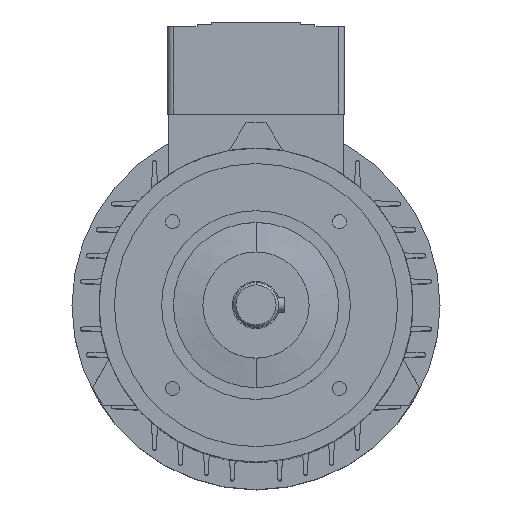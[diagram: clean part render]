
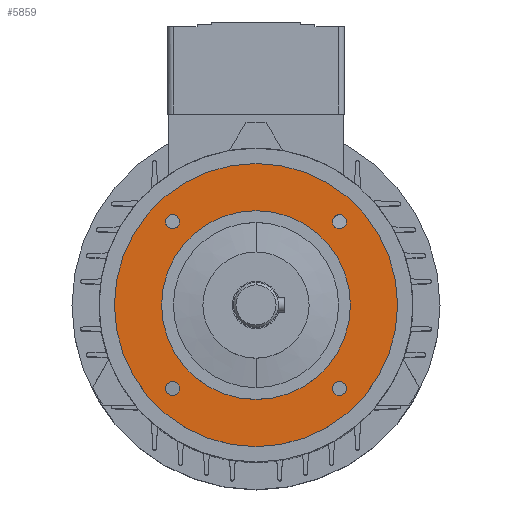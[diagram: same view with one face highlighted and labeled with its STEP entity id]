
A CAD part, top view. The second image highlights one B-rep face of the part: STEP entity #5859.
In plain terms, the highlighted planar face has unit normal (0, 0, 1).
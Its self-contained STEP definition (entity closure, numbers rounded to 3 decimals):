
#1607=CARTESIAN_POINT('',(-35.355,35.355,23.5));
#1608=DIRECTION('',(0.,0.,-1.));
#1609=DIRECTION('',(-1.,0.,0.));
#1610=AXIS2_PLACEMENT_3D('',#1607,#1608,#1609);
#1612=CARTESIAN_POINT('',(-35.355,35.355,23.5));
#1613=DIRECTION('',(0.,0.,-1.));
#1614=DIRECTION('',(1.,0.,0.));
#1615=AXIS2_PLACEMENT_3D('',#1612,#1613,#1614);
#1617=CARTESIAN_POINT('',(-35.355,-35.355,23.5));
#1618=DIRECTION('',(0.,0.,-1.));
#1619=DIRECTION('',(-1.,0.,0.));
#1620=AXIS2_PLACEMENT_3D('',#1617,#1618,#1619);
#1622=CARTESIAN_POINT('',(-35.355,-35.355,23.5));
#1623=DIRECTION('',(0.,0.,-1.));
#1624=DIRECTION('',(1.,0.,0.));
#1625=AXIS2_PLACEMENT_3D('',#1622,#1623,#1624);
#1627=CARTESIAN_POINT('',(35.355,-35.355,23.5));
#1628=DIRECTION('',(0.,0.,-1.));
#1629=DIRECTION('',(-1.,0.,0.));
#1630=AXIS2_PLACEMENT_3D('',#1627,#1628,#1629);
#1632=CARTESIAN_POINT('',(35.355,-35.355,23.5));
#1633=DIRECTION('',(0.,0.,-1.));
#1634=DIRECTION('',(1.,0.,0.));
#1635=AXIS2_PLACEMENT_3D('',#1632,#1633,#1634);
#1637=CARTESIAN_POINT('',(0.,0.,23.5));
#1638=DIRECTION('',(0.,0.,1.));
#1639=DIRECTION('',(0.,1.,0.));
#1640=AXIS2_PLACEMENT_3D('',#1637,#1638,#1639);
#1642=CARTESIAN_POINT('',(0.,0.,23.5));
#1643=DIRECTION('',(0.,0.,-1.));
#1644=DIRECTION('',(0.,1.,0.));
#1645=AXIS2_PLACEMENT_3D('',#1642,#1643,#1644);
#1647=CARTESIAN_POINT('',(35.355,35.355,23.5));
#1648=DIRECTION('',(0.,0.,-1.));
#1649=DIRECTION('',(-1.,0.,0.));
#1650=AXIS2_PLACEMENT_3D('',#1647,#1648,#1649);
#1652=CARTESIAN_POINT('',(35.355,35.355,23.5));
#1653=DIRECTION('',(0.,0.,-1.));
#1654=DIRECTION('',(1.,0.,0.));
#1655=AXIS2_PLACEMENT_3D('',#1652,#1653,#1654);
#2035=CARTESIAN_POINT('',(0.,0.,23.5));
#2036=DIRECTION('',(0.,0.,1.));
#2037=DIRECTION('',(0.,1.,0.));
#2038=AXIS2_PLACEMENT_3D('',#2035,#2036,#2037);
#2040=CARTESIAN_POINT('',(0.,0.,23.5));
#2041=DIRECTION('',(0.,0.,-1.));
#2042=DIRECTION('',(0.,1.,0.));
#2043=AXIS2_PLACEMENT_3D('',#2040,#2041,#2042);
#2909=CARTESIAN_POINT('',(0.,60.,23.5));
#2911=VERTEX_POINT('',#2909);
#2912=CARTESIAN_POINT('',(0.,40.,23.5));
#2914=VERTEX_POINT('',#2912);
#2917=CARTESIAN_POINT('',(0.,-60.,23.5));
#2919=VERTEX_POINT('',#2917);
#2920=CARTESIAN_POINT('',(0.,-40.,23.5));
#2922=VERTEX_POINT('',#2920);
#2932=CARTESIAN_POINT('',(32.355,35.355,23.5));
#2933=CARTESIAN_POINT('',(38.355,35.355,23.5));
#2934=VERTEX_POINT('',#2932);
#2935=VERTEX_POINT('',#2933);
#2936=CARTESIAN_POINT('',(32.355,-35.355,23.5));
#2937=CARTESIAN_POINT('',(38.355,-35.355,23.5));
#2938=VERTEX_POINT('',#2936);
#2939=VERTEX_POINT('',#2937);
#2940=CARTESIAN_POINT('',(-38.355,-35.355,23.5));
#2941=CARTESIAN_POINT('',(-32.355,-35.355,23.5));
#2942=VERTEX_POINT('',#2940);
#2943=VERTEX_POINT('',#2941);
#2944=CARTESIAN_POINT('',(-38.355,35.355,23.5));
#2945=CARTESIAN_POINT('',(-32.355,35.355,23.5));
#2946=VERTEX_POINT('',#2944);
#2947=VERTEX_POINT('',#2945);
#5820=CARTESIAN_POINT('',(0.,0.,23.5));
#5821=DIRECTION('',(0.,0.,-1.));
#5822=DIRECTION('',(0.,-1.,0.));
#5823=AXIS2_PLACEMENT_3D('',#5820,#5821,#5822);
#5824=PLANE('',#5823);
#5825=ORIENTED_EDGE('',*,*,#5813,.F.);
#5826=ORIENTED_EDGE('',*,*,#5802,.T.);
#5827=EDGE_LOOP('',(#5825,#5826));
#5828=FACE_OUTER_BOUND('',#5827,.F.);
#5830=ORIENTED_EDGE('',*,*,#5829,.F.);
#5832=ORIENTED_EDGE('',*,*,#5831,.F.);
#5833=EDGE_LOOP('',(#5830,#5832));
#5834=FACE_BOUND('',#5833,.F.);
#5836=ORIENTED_EDGE('',*,*,#5835,.F.);
#5838=ORIENTED_EDGE('',*,*,#5837,.F.);
#5839=EDGE_LOOP('',(#5836,#5838));
#5840=FACE_BOUND('',#5839,.F.);
#5842=ORIENTED_EDGE('',*,*,#5841,.F.);
#5844=ORIENTED_EDGE('',*,*,#5843,.F.);
#5845=EDGE_LOOP('',(#5842,#5844));
#5846=FACE_BOUND('',#5845,.F.);
#5848=ORIENTED_EDGE('',*,*,#5847,.F.);
#5850=ORIENTED_EDGE('',*,*,#5849,.T.);
#5851=EDGE_LOOP('',(#5848,#5850));
#5852=FACE_BOUND('',#5851,.F.);
#5854=ORIENTED_EDGE('',*,*,#5853,.F.);
#5856=ORIENTED_EDGE('',*,*,#5855,.F.);
#5857=EDGE_LOOP('',(#5854,#5856));
#5858=FACE_BOUND('',#5857,.F.);
#5859=ADVANCED_FACE('',(#5828,#5834,#5840,#5846,#5852,#5858),#5824,.F.);
#1611=CIRCLE('',#1610,3.);
#1616=CIRCLE('',#1615,3.);
#1621=CIRCLE('',#1620,3.);
#1626=CIRCLE('',#1625,3.);
#1631=CIRCLE('',#1630,3.);
#1636=CIRCLE('',#1635,3.);
#1641=CIRCLE('',#1640,60.);
#1646=CIRCLE('',#1645,60.);
#1651=CIRCLE('',#1650,3.);
#1656=CIRCLE('',#1655,3.);
#2039=CIRCLE('',#2038,40.);
#2044=CIRCLE('',#2043,40.);
#5802=EDGE_CURVE('',#2911,#2919,#1646,.T.);
#5813=EDGE_CURVE('',#2911,#2919,#1641,.T.);
#5829=EDGE_CURVE('',#2946,#2947,#1611,.T.);
#5831=EDGE_CURVE('',#2947,#2946,#1616,.T.);
#5835=EDGE_CURVE('',#2942,#2943,#1621,.T.);
#5837=EDGE_CURVE('',#2943,#2942,#1626,.T.);
#5841=EDGE_CURVE('',#2938,#2939,#1631,.T.);
#5843=EDGE_CURVE('',#2939,#2938,#1636,.T.);
#5847=EDGE_CURVE('',#2914,#2922,#2044,.T.);
#5849=EDGE_CURVE('',#2914,#2922,#2039,.T.);
#5853=EDGE_CURVE('',#2934,#2935,#1651,.T.);
#5855=EDGE_CURVE('',#2935,#2934,#1656,.T.);
